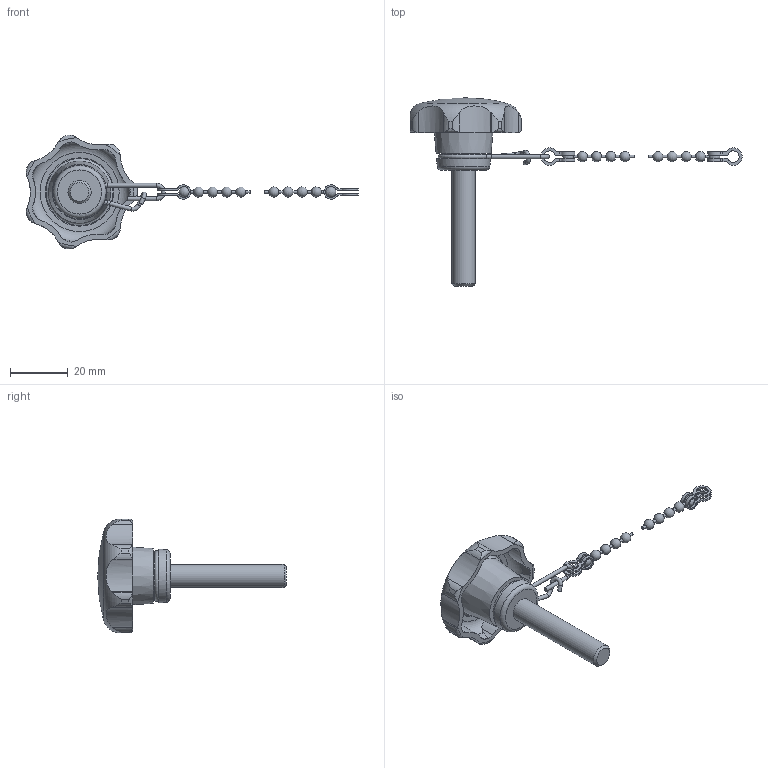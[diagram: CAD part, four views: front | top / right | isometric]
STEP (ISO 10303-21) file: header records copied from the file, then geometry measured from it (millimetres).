
FILE_DESCRIPTION( ( 'STEP AP203' ), '1' );
FILE_NAME( 'C:/Temp/Ganter_Step_05_03_2020/data/2_2/gn_6336_13/gn_6336_13_2/Star knob GN 6336.13-40-M8-40-K.stp', '2020-03-05T12:12:23', ( 'License CC BY-ND 4.0' ), ( 'CADENAS' ), ' ', 'PARTsolutions', ' ' );
FILE_SCHEMA( ( 'CONFIG_CONTROL_DESIGN' ) );
Length unit declared in the file: millimetre
Products named in the file (3): Star knob GN 6336.13-40-M8-40-K; _Star knob GN 6336.13-40-M8-40-K 6; _Star knob GN 111.5-200-14 k2
Assembly tree (2 placements, depth 2):
  Star knob GN 6336.13-40-M8-40-K
    _Star knob GN 6336.13-40-M8-40-K 6
    _Star knob GN 111.5-200-14 k2
Bounding box: 114.51 x 65 x 39.31 mm (x, y, z)
Volume: 13563.4 mm3; surface area: 7383.5 mm2
Topology: 2 solids, 2 shells, 184 faces, 527 edges, 341 vertices
Faces by surface type: cylinder 115, plane 29, torus 18, sphere 11, cone 11
Full cylindrical faces by diameter (mm): 0.9 x10, 1.4 x5, 8 x1, 14.7 x1
Entity records: 6592 total; most frequent: CARTESIAN_POINT 1993, ORIENTED_EDGE 928, DIRECTION 924, EDGE_CURVE 464, AXIS2_PLACEMENT_3D 388, VERTEX_POINT 329, EDGE_LOOP 234, FACE_OUTER_BOUND 219
